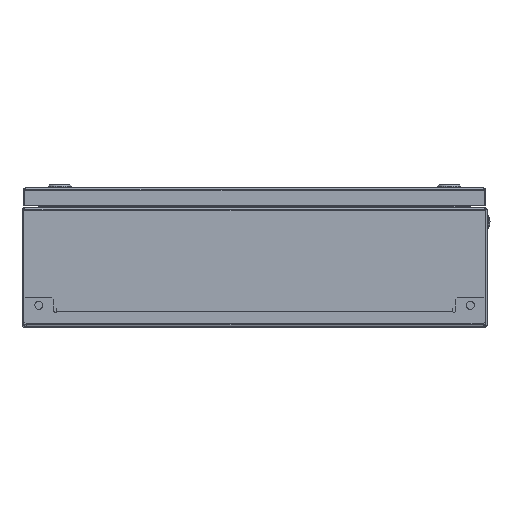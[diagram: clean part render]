
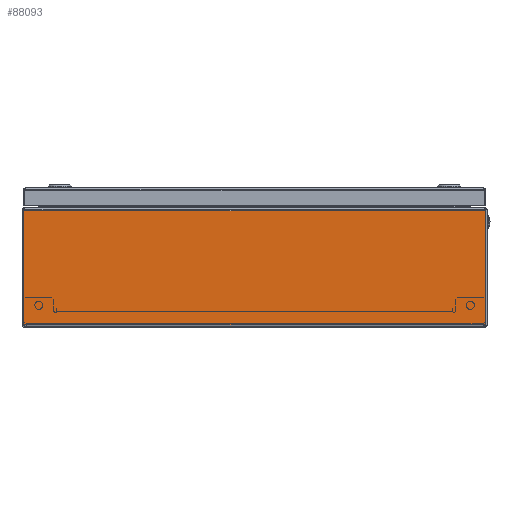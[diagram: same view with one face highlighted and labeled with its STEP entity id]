
A CAD part, left-side view. The second image highlights one B-rep face of the part: STEP entity #88093.
In plain terms, the highlighted planar face has unit normal (-1, 0, 0).
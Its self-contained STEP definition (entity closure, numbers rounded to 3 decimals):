
#742 = LINE ( 'NONE', #70366, #42863 ) ;
#5237 = DIRECTION ( 'NONE',  ( 0., 1., 0. ) ) ;
#9371 = EDGE_CURVE ( 'NONE', #119552, #58344, #67879, .T. ) ;
#12071 = DIRECTION ( 'NONE',  ( 0., 0., -1. ) ) ;
#14348 = CARTESIAN_POINT ( 'NONE',  ( -400., -4200., 100.6 ) ) ;
#31228 = EDGE_CURVE ( 'NONE', #58344, #45538, #742, .T. ) ;
#32210 = VECTOR ( 'NONE', #12071, 1000. ) ;
#39978 = LINE ( 'NONE', #99010, #61035 ) ;
#42863 = VECTOR ( 'NONE', #59671, 1000. ) ;
#45391 = ORIENTED_EDGE ( 'NONE', *, *, #111542, .T. ) ;
#45538 = VERTEX_POINT ( 'NONE', #70570 ) ;
#50033 = CARTESIAN_POINT ( 'NONE',  ( -400., 198.623, 2.4 ) ) ;
#54909 = DIRECTION ( 'NONE',  ( 0., 1., 0. ) ) ;
#56439 = CARTESIAN_POINT ( 'NONE',  ( -400., -4200., 2.4 ) ) ;
#58344 = VERTEX_POINT ( 'NONE', #50033 ) ;
#59671 = DIRECTION ( 'NONE',  ( 0., 0., 1. ) ) ;
#61035 = VECTOR ( 'NONE', #5237, 1000. ) ;
#67879 = LINE ( 'NONE', #56439, #124543 ) ;
#68233 = CARTESIAN_POINT ( 'NONE',  ( -400., -198.623, 100.6 ) ) ;
#70366 = CARTESIAN_POINT ( 'NONE',  ( -400., 198.623, 100.6 ) ) ;
#70430 = FACE_OUTER_BOUND ( 'NONE', #89803, .T. ) ;
#70570 = CARTESIAN_POINT ( 'NONE',  ( -400., 198.623, 100.6 ) ) ;
#78781 = LINE ( 'NONE', #68233, #32210 ) ;
#81056 = ORIENTED_EDGE ( 'NONE', *, *, #31228, .F. ) ;
#84369 = CARTESIAN_POINT ( 'NONE',  ( -400., -198.623, 2.4 ) ) ;
#84692 = DIRECTION ( 'NONE',  ( 0., 0., -1. ) ) ;
#88093 = ADVANCED_FACE ( 'NONE', ( #70430 ), #106666, .F. ) ;
#89803 = EDGE_LOOP ( 'NONE', ( #81056, #113885, #103626, #45391 ) ) ;
#97084 = CARTESIAN_POINT ( 'NONE',  ( -400., -198.623, 100.6 ) ) ;
#99010 = CARTESIAN_POINT ( 'NONE',  ( -400., -4200., 100.6 ) ) ;
#103626 = ORIENTED_EDGE ( 'NONE', *, *, #112220, .F. ) ;
#106666 = PLANE ( 'NONE',  #114658 ) ;
#111542 = EDGE_CURVE ( 'NONE', #135049, #45538, #39978, .T. ) ;
#112220 = EDGE_CURVE ( 'NONE', #135049, #119552, #78781, .T. ) ;
#113885 = ORIENTED_EDGE ( 'NONE', *, *, #9371, .F. ) ;
#114658 = AXIS2_PLACEMENT_3D ( 'NONE', #14348, #141413, #84692 ) ;
#119552 = VERTEX_POINT ( 'NONE', #84369 ) ;
#124543 = VECTOR ( 'NONE', #54909, 1000. ) ;
#135049 = VERTEX_POINT ( 'NONE', #97084 ) ;
#141413 = DIRECTION ( 'NONE',  ( 1., 0., 0. ) ) ;
